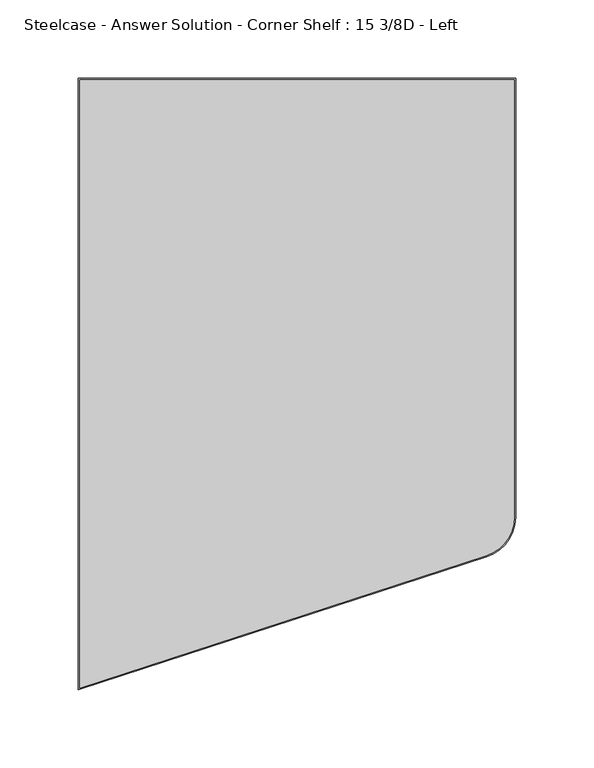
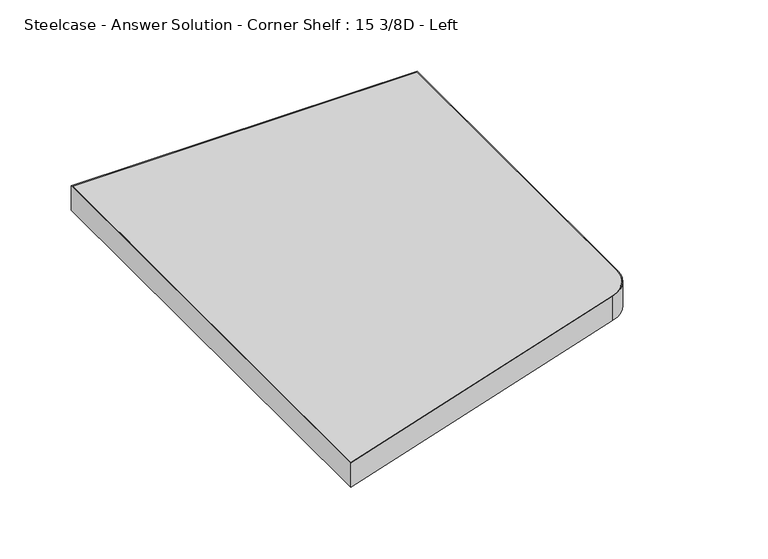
"""IFC4 building model written with IfcOpenShell, lengths in millimetres: furniture geometry, Steelcase - Answer Solution - Corner Shelf : 15 3/8D - Left."""

from ifc_helpers import new_model, si_unit, point, frame, frame_2d, origin, place, context, project, spatial, polyline, circle_curve, trimmed, segment, composite_curve, outline, extrude, source, transform, mapped, element, save


def steelcase_answer_solution_corner_shelf_15_3_8d_left_0fe8a52e(model_context):
    return source(origin(), model_context, "Body", "SweptSolid", [
        extrude(outline(composite_curve([segment(polyline([(443.738, -110.236), (443.738, -389.8540688)]), True, "CONTINUOUS"), segment(trimmed(circle_curve(frame_2d((417.83, -389.8540688)), 25.908), [point((443.738, -389.8540688))], [point((425.8345824, -414.4945056))], False, "CARTESIAN"), True, "CONTINUOUS"), segment(polyline([(425.8345824, -414.4945056), (165.862, -499.1130655), (165.862, -110.236), (443.738, -110.236)]), True, "CONTINUOUS")], self_intersect=False)), frame((0.0, 0.0, 723.9), z_axis=(0.0, 0.0, 1.0), x_axis=(1.0, 0.0, 0.0)), (0.0, 0.0, 1.0), 20.574),
        extrude(outline(composite_curve([segment(polyline([(426.0834994, -415.2607447), (165.0563438, -500.2225581), (165.0563438, -109.4303437), (444.5436563, -109.4303437), (444.5436563, -389.8540688)]), True, "CONTINUOUS"), segment(trimmed(circle_curve(frame_2d((417.83, -389.8540688)), 26.7136563), [point((444.5436563, -389.8540688))], [point((426.0834994, -415.2607447))], False, "CARTESIAN"), True, "CONTINUOUS")], self_intersect=False), holes=[composite_curve([segment(polyline([(443.738, -110.236), (165.862, -110.236), (165.862, -499.1130655), (425.8345824, -414.4945056)]), True, "CONTINUOUS"), segment(trimmed(circle_curve(frame_2d((417.83, -389.8540688)), 25.908), [point((425.8345824, -414.4945056))], [point((443.738, -389.8540688))], True, "CARTESIAN"), True, "CONTINUOUS"), segment(polyline([(443.738, -389.8540688), (443.738, -110.236)]), True, "CONTINUOUS")], self_intersect=False)]), frame((0.0, 0.0, 723.9), z_axis=(0.0, 0.0, 1.0), x_axis=(1.0, 0.0, 0.0)), (0.0, 0.0, 1.0), 20.574),
    ])


if __name__ == "__main__":
    model = new_model("IFC4")
    model_context = context("Model", 3, world=origin())
    ifc_project = project(units=[si_unit("LENGTHUNIT", "METRE", prefix="MILLI")], contexts=[model_context])
    site = spatial("IfcSite", under=ifc_project)
    building = spatial("IfcBuilding", under=site)
    placement = place(None, origin())
    steelcase_answer_solution_corner_shelf_15_3_8d_left_shape = steelcase_answer_solution_corner_shelf_15_3_8d_left_0fe8a52e(model_context)
    element("IfcFurniture", 1, ObjectType="Steelcase - Answer Solution - Corner Shelf : 15 3/8D - Left", at=placement, inside=building, context=model_context, shape_type="MappedRepresentation", body=[
        mapped(steelcase_answer_solution_corner_shelf_15_3_8d_left_shape, transform((0.0, 0.0, 0.0), x_axis=(1.0, 0.0, 0.0), y_axis=(0.0, 1.0, 0.0), z_axis=(0.0, 0.0, 1.0))),
    ])
    save(model, "model.ifc")
